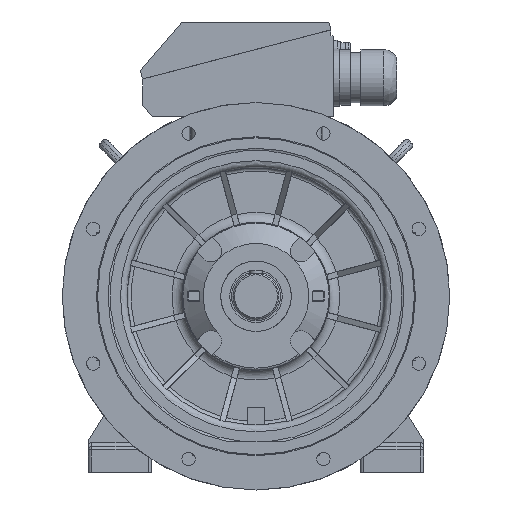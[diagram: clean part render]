
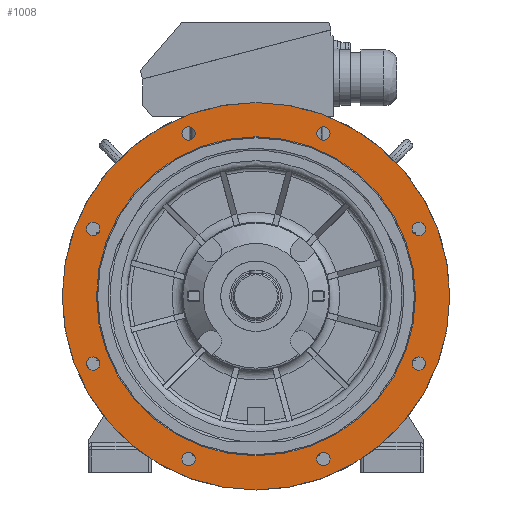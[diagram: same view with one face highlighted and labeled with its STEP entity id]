
A CAD part, front view. The second image highlights one B-rep face of the part: STEP entity #1008.
In plain terms, the highlighted planar face has unit normal (0, -1, 0).
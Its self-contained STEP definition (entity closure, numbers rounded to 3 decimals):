
#1008 = ADVANCED_FACE( '', ( #3171, #3172, #3173, #3174, #3175, #3176, #3177, #3178, #3179, #3180 ), #3181, .F. );
#3171 = FACE_OUTER_BOUND( '', #13323, .T. );
#3172 = FACE_BOUND( '', #13324, .T. );
#3173 = FACE_BOUND( '', #13325, .T. );
#3174 = FACE_BOUND( '', #13326, .T. );
#3175 = FACE_BOUND( '', #13327, .T. );
#3176 = FACE_BOUND( '', #13328, .T. );
#3177 = FACE_BOUND( '', #13329, .T. );
#3178 = FACE_BOUND( '', #13330, .T. );
#3179 = FACE_BOUND( '', #13331, .T. );
#3180 = FACE_BOUND( '', #13332, .T. );
#3181 = PLANE( '', #13333 );
#13323 = EDGE_LOOP( '', ( #20587 ) );
#13324 = EDGE_LOOP( '', ( #20588 ) );
#13325 = EDGE_LOOP( '', ( #20589 ) );
#13326 = EDGE_LOOP( '', ( #20590 ) );
#13327 = EDGE_LOOP( '', ( #20591 ) );
#13328 = EDGE_LOOP( '', ( #20592 ) );
#13329 = EDGE_LOOP( '', ( #20593 ) );
#13330 = EDGE_LOOP( '', ( #20594 ) );
#13331 = EDGE_LOOP( '', ( #20595 ) );
#13332 = EDGE_LOOP( '', ( #20596 ) );
#13333 = AXIS2_PLACEMENT_3D( '', #20597, #20598, #20599 );
#20587 = ORIENTED_EDGE( '', *, *, #26281, .T. );
#20588 = ORIENTED_EDGE( '', *, *, #26282, .F. );
#20589 = ORIENTED_EDGE( '', *, *, #26283, .F. );
#20590 = ORIENTED_EDGE( '', *, *, #26284, .F. );
#20591 = ORIENTED_EDGE( '', *, *, #26285, .F. );
#20592 = ORIENTED_EDGE( '', *, *, #26286, .F. );
#20593 = ORIENTED_EDGE( '', *, *, #26287, .F. );
#20594 = ORIENTED_EDGE( '', *, *, #26288, .F. );
#20595 = ORIENTED_EDGE( '', *, *, #26289, .F. );
#20596 = ORIENTED_EDGE( '', *, *, #26290, .F. );
#20597 = CARTESIAN_POINT( '', ( 226.4, -89.997, 0. ) );
#20598 = DIRECTION( '', ( 0., 1., 0. ) );
#20599 = DIRECTION( '', ( 1., 0., 0. ) );
#26281 = EDGE_CURVE( '', #31172, #31172, #31173, .T. );
#26282 = EDGE_CURVE( '', #31174, #31174, #31175, .T. );
#26283 = EDGE_CURVE( '', #31176, #31176, #31177, .T. );
#26284 = EDGE_CURVE( '', #31178, #31178, #31179, .T. );
#26285 = EDGE_CURVE( '', #31180, #31180, #31181, .T. );
#26286 = EDGE_CURVE( '', #31182, #31182, #31183, .T. );
#26287 = EDGE_CURVE( '', #31184, #31184, #31185, .T. );
#26288 = EDGE_CURVE( '', #31186, #31186, #31187, .T. );
#26289 = EDGE_CURVE( '', #31188, #31188, #31189, .T. );
#26290 = EDGE_CURVE( '', #31190, #31190, #31191, .T. );
#31172 = VERTEX_POINT( '', #42820 );
#31173 = CIRCLE( '', #42821, 275. );
#31174 = VERTEX_POINT( '', #42822 );
#31175 = CIRCLE( '', #42823, 226.4 );
#31176 = VERTEX_POINT( '', #42824 );
#31177 = CIRCLE( '', #42825, 9.5 );
#31178 = VERTEX_POINT( '', #42826 );
#31179 = CIRCLE( '', #42827, 9.5 );
#31180 = VERTEX_POINT( '', #42828 );
#31181 = CIRCLE( '', #42829, 9.5 );
#31182 = VERTEX_POINT( '', #42830 );
#31183 = CIRCLE( '', #42831, 9.5 );
#31184 = VERTEX_POINT( '', #42832 );
#31185 = CIRCLE( '', #42833, 9.5 );
#31186 = VERTEX_POINT( '', #42834 );
#31187 = CIRCLE( '', #42835, 9.5 );
#31188 = VERTEX_POINT( '', #42836 );
#31189 = CIRCLE( '', #42837, 9.5 );
#31190 = VERTEX_POINT( '', #42838 );
#31191 = CIRCLE( '', #42839, 9.5 );
#42820 = CARTESIAN_POINT( '', ( -275., -89.997, 0. ) );
#42821 = AXIS2_PLACEMENT_3D( '', #48641, #48642, #48643 );
#42822 = CARTESIAN_POINT( '', ( -226.4, -89.997, 0. ) );
#42823 = AXIS2_PLACEMENT_3D( '', #48644, #48645, #48646 );
#42824 = CARTESIAN_POINT( '', ( -230.97, -89.997, -86.171 ) );
#42825 = AXIS2_PLACEMENT_3D( '', #48647, #48648, #48649 );
#42826 = CARTESIAN_POINT( '', ( -95.671, -89.997, -221.47 ) );
#42827 = AXIS2_PLACEMENT_3D( '', #48650, #48651, #48652 );
#42828 = CARTESIAN_POINT( '', ( 95.671, -89.997, -221.47 ) );
#42829 = AXIS2_PLACEMENT_3D( '', #48653, #48654, #48655 );
#42830 = CARTESIAN_POINT( '', ( 230.97, -89.997, -86.171 ) );
#42831 = AXIS2_PLACEMENT_3D( '', #48656, #48657, #48658 );
#42832 = CARTESIAN_POINT( '', ( -95.671, -89.997, 240.47 ) );
#42833 = AXIS2_PLACEMENT_3D( '', #48659, #48660, #48661 );
#42834 = CARTESIAN_POINT( '', ( 95.671, -89.997, 240.47 ) );
#42835 = AXIS2_PLACEMENT_3D( '', #48662, #48663, #48664 );
#42836 = CARTESIAN_POINT( '', ( 230.97, -89.997, 105.171 ) );
#42837 = AXIS2_PLACEMENT_3D( '', #48665, #48666, #48667 );
#42838 = CARTESIAN_POINT( '', ( -230.97, -89.997, 105.171 ) );
#42839 = AXIS2_PLACEMENT_3D( '', #48668, #48669, #48670 );
#48641 = CARTESIAN_POINT( '', ( 0., -89.997, 0. ) );
#48642 = DIRECTION( '', ( 0., -1., 0. ) );
#48643 = DIRECTION( '', ( -1., 0., 0. ) );
#48644 = CARTESIAN_POINT( '', ( 0., -89.997, 0. ) );
#48645 = DIRECTION( '', ( 0., -1., 0. ) );
#48646 = DIRECTION( '', ( -1., 0., 0. ) );
#48647 = CARTESIAN_POINT( '', ( -230.97, -89.997, -95.671 ) );
#48648 = DIRECTION( '', ( 0., -1., 0. ) );
#48649 = DIRECTION( '', ( 0., 0., 1. ) );
#48650 = CARTESIAN_POINT( '', ( -95.671, -89.997, -230.97 ) );
#48651 = DIRECTION( '', ( 0., -1., 0. ) );
#48652 = DIRECTION( '', ( 0., 0., 1. ) );
#48653 = CARTESIAN_POINT( '', ( 95.671, -89.997, -230.97 ) );
#48654 = DIRECTION( '', ( 0., -1., 0. ) );
#48655 = DIRECTION( '', ( 0., 0., 1. ) );
#48656 = CARTESIAN_POINT( '', ( 230.97, -89.997, -95.671 ) );
#48657 = DIRECTION( '', ( 0., -1., 0. ) );
#48658 = DIRECTION( '', ( 0., 0., 1. ) );
#48659 = CARTESIAN_POINT( '', ( -95.671, -89.997, 230.97 ) );
#48660 = DIRECTION( '', ( 0., -1., 0. ) );
#48661 = DIRECTION( '', ( 0., 0., 1. ) );
#48662 = CARTESIAN_POINT( '', ( 95.671, -89.997, 230.97 ) );
#48663 = DIRECTION( '', ( 0., -1., 0. ) );
#48664 = DIRECTION( '', ( 0., 0., 1. ) );
#48665 = CARTESIAN_POINT( '', ( 230.97, -89.997, 95.671 ) );
#48666 = DIRECTION( '', ( 0., -1., 0. ) );
#48667 = DIRECTION( '', ( 0., 0., 1. ) );
#48668 = CARTESIAN_POINT( '', ( -230.97, -89.997, 95.671 ) );
#48669 = DIRECTION( '', ( 0., -1., 0. ) );
#48670 = DIRECTION( '', ( 0., 0., 1. ) );
